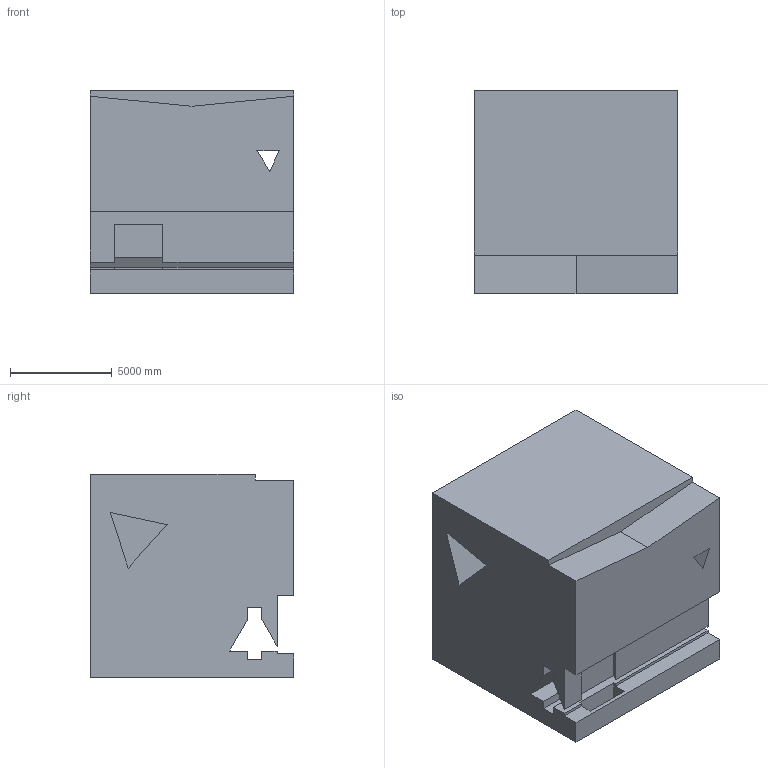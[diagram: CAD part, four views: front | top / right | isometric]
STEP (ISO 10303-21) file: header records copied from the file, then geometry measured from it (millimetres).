
FILE_DESCRIPTION (( 'STEP AP203' ), '1' );
FILE_NAME ('69.STEP', '2022-09-02T13:59:32', ( 'user' ), ( '' ), 'SwSTEP 2.0', 'SolidWorks 2021', '' );
FILE_SCHEMA (( 'CONFIG_CONTROL_DESIGN' ));
Length unit declared in the file: centimetre
Products named in the file (1): 69
Bounding box: 10000 x 10000 x 10000 mm (x, y, z)
Volume: 907664594228.5 mm3; surface area: 768021487.3 mm2
Topology: 1 solids, 1 shells, 40 faces, 114 edges, 76 vertices
Faces by surface type: plane 40
Entity records: 1363 total; most frequent: CARTESIAN_POINT 231, ORIENTED_EDGE 228, DIRECTION 196, LINE 114, EDGE_CURVE 114, VECTOR 114, VERTEX_POINT 76, EDGE_LOOP 44
